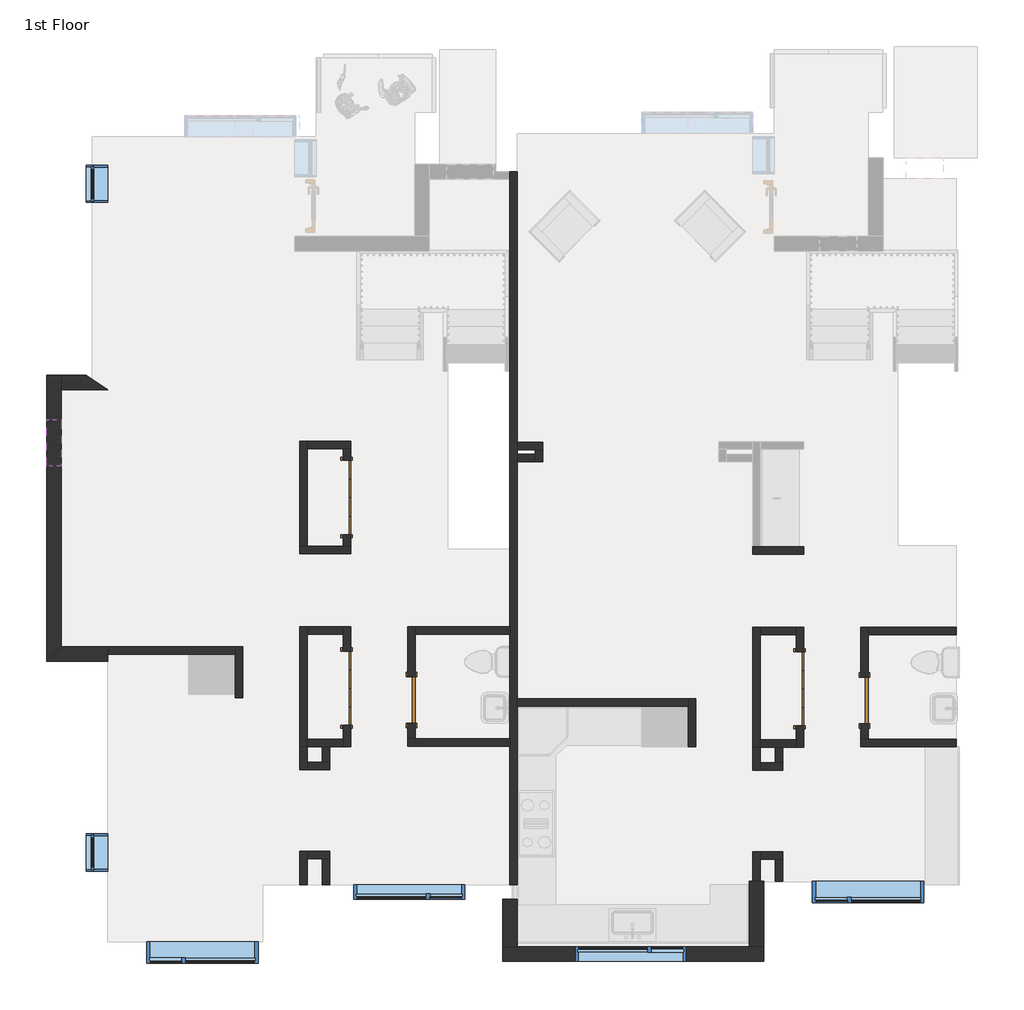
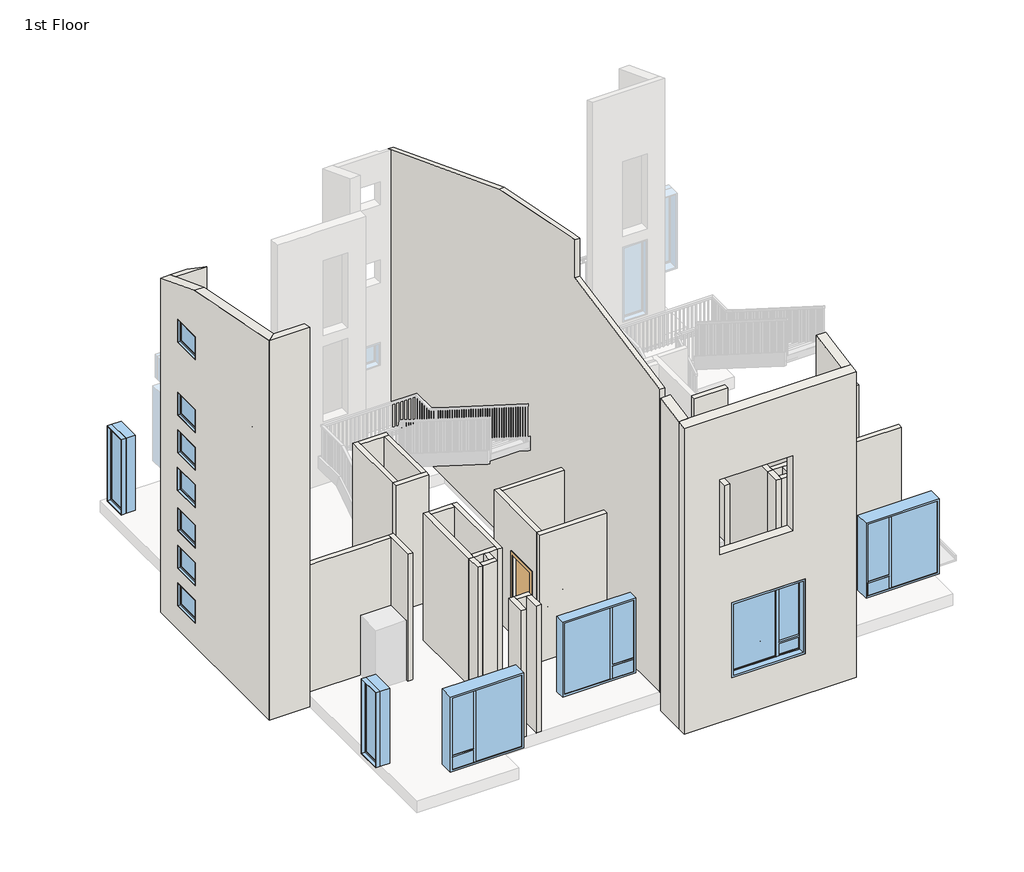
# One storey, part 1 of 6: 45 walls, 13 windows, 5 doors.
"""IFC4 building model written with IfcOpenShell, lengths in millimetres."""

from ifc_helpers import new_model, si_unit, frame, origin, origin_with_axes, place, context, project, spatial, polyline, outline, extrude, faceted_brep, transform, mapped, element, save
from components import bifold_4_panel_87549022, door_f8acb57e, window_8bf192ed, window_b1c1038b, window_8c170f25, window_7b40078c, window_0ea17b29, window_b4566f23

model = new_model("IFC4")

# Units and contexts
model_context = context("Model", 3, world=origin())
ifc_project = project(units=[si_unit("LENGTHUNIT", "METRE", prefix="MILLI")], contexts=[model_context])

# Site, building, storey
site = spatial("IfcSite", under=ifc_project)
building = spatial("IfcBuilding", under=site)
storey = spatial("IfcBuildingStorey", under=building, Name="1st Floor", Elevation=0.0)

# Doors
placement = place(None, origin())
bifold_4_panel_shape = bifold_4_panel_87549022(model_context)
element("IfcDoor", 1, ObjectType="Bifold - 4 panel : 48\" x  84\"", at=placement, inside=storey, context=model_context, shape_type="MappedRepresentation", body=[
    mapped(bifold_4_panel_shape, transform((3072.3655789, -2688.2311915, 0.0), x_axis=(0.0, -1.0, 0.0), y_axis=(1.0, 0.0, 0.0), z_axis=(0.0, 0.0, 1.0))),
])
element("IfcDoor", 2, ObjectType="Bifold - 4 panel : 48\" x  84\"", at=placement, inside=storey, context=model_context, shape_type="MappedRepresentation", body=[
    mapped(bifold_4_panel_shape, transform((-4380.8788287, -2678.2311915, 0.0), x_axis=(0.0, -1.0, 0.0), y_axis=(1.0, 0.0, 0.0), z_axis=(0.0, 0.0, 1.0))),
])
element("IfcDoor", 3, ObjectType="Bifold - 4 panel : 48\" x  84\"", at=placement, inside=storey, context=model_context, shape_type="MappedRepresentation", body=[
    mapped(bifold_4_panel_shape, transform((-4380.8788287, 458.0881146, 0.0), x_axis=(0.0, -1.0, 0.0), y_axis=(1.0, 0.0, 0.0), z_axis=(0.0, 0.0, 1.0))),
])
door_shape = door_f8acb57e(model_context)
element("IfcDoor", 4, ObjectType="Single-Flush : 30\" x 84\"", at=placement, inside=storey, context=model_context, shape_type="MappedRepresentation", body=[
    mapped(door_shape, transform((4133.8655789, -2883.0811915, 0.0), x_axis=(0.0, -1.0, 0.0), y_axis=(1.0, 0.0, 0.0), z_axis=(0.0, 0.0, 1.0))),
])
element("IfcDoor", 5, ObjectType="Single-Flush : 30\" x 84\"", at=placement, inside=storey, context=model_context, shape_type="MappedRepresentation", body=[
    mapped(door_shape, transform((-3319.3788287, -2873.0811915, 0.0), x_axis=(0.0, -1.0, 0.0), y_axis=(1.0, 0.0, 0.0), z_axis=(0.0, 0.0, 1.0))),
])

# Walls
element("IfcWall", 6, ObjectType="Exterior - Stucco", at=placement, inside=storey, context=model_context, shape_type="Brep", body=[
    faceted_brep([(-1817.4196781, -7175.2311915, -304.8), (2477.8178219, -7175.2311915, -304.8), (2477.8178219, -7175.2311915, 7751.741203), (-1817.4196781, -7175.2311915, 7751.741203), (1202.9938664, -7175.2311915, 2743.2), (1202.9938664, -7175.2311915, 762.0), (-625.8061336, -7175.2311915, 762.0), (-625.8061336, -7175.2311915, 2743.2), (898.1938664, -7175.2311915, 6096.0), (898.1938664, -7175.2311915, 4114.8), (-930.6061336, -7175.2311915, 4114.8), (-930.6061336, -7175.2311915, 6096.0), (-1817.4196781, -6933.9311915, -304.8), (-1817.4196781, -6933.9311915, 7798.3676333), (-1576.1196781, -6933.9311915, 7798.3676333), (2236.5178219, -6933.9311915, 7798.3676333), (2477.8178219, -6933.9311915, 7798.3676333), (2477.8178219, -6933.9311915, -304.8), (2236.5178219, -6933.9311915, -304.8), (-1576.1196781, -6933.9311915, -304.8), (1202.9938664, -6933.9311915, 2743.2), (-625.8061336, -6933.9311915, 2743.2), (-625.8061336, -6933.9311915, 762.0), (1202.9938664, -6933.9311915, 762.0), (898.1938664, -6933.9311915, 6096.0), (-930.6061336, -6933.9311915, 6096.0), (-930.6061336, -6933.9311915, 4114.8), (898.1938664, -6933.9311915, 4114.8)], [[[0, 1, 2, 3], [4, 5, 6, 7], [8, 9, 10, 11]], [[12, 13, 14, 15, 16, 17, 18, 19], [20, 21, 22, 23], [24, 25, 26, 27]], [[1, 0, 12, 19, 18, 17]], [[0, 3, 13, 12]], [[2, 1, 17, 16]], [[3, 2, 16, 15, 14, 13]], [[5, 4, 20, 23]], [[6, 5, 23, 22]], [[7, 6, 22, 21]], [[4, 7, 21, 20]], [[9, 8, 24, 27]], [[10, 9, 27, 26]], [[11, 10, 26, 25]], [[8, 11, 25, 24]]]),
])
element("IfcWall", 7, ObjectType="Exterior - Stucco", at=placement, inside=storey, context=model_context, shape_type="Brep", body=[
    faceted_brep([(-9080.4946781, 2472.0574206, -304.8), (-9080.4946781, 2472.0574206, 8511.7370135), (-9080.4946781, 2230.7574206, 8604.6307787), (-9080.4946781, 1023.3611207, 9069.4446552), (-9080.4946781, -1997.5436915, 9665.7212145), (-9080.4946781, -1997.5436915, -304.8), (-9080.4946781, 2230.7574206, -304.8), (-9080.4946781, 1734.6688085, 7870.825), (-9080.4946781, 1734.6688085, 7261.225), (-9080.4946781, 972.6688085, 7261.225), (-9080.4946781, 972.6688085, 7870.825), (-9080.4946781, 1734.6688085, 5949.95), (-9080.4946781, 1734.6688085, 5340.35), (-9080.4946781, 972.6688085, 5340.35), (-9080.4946781, 972.6688085, 5949.95), (-9080.4946781, 1734.6688085, 4956.175), (-9080.4946781, 1734.6688085, 4346.575), (-9080.4946781, 972.6688085, 4346.575), (-9080.4946781, 972.6688085, 4956.175), (-9080.4946781, 1741.8074206, 3962.4), (-9080.4946781, 1741.8074206, 3352.8), (-9080.4946781, 979.8074206, 3352.8), (-9080.4946781, 979.8074206, 3962.4), (-9080.4946781, 1734.6688085, 2901.95), (-9080.4946781, 1734.6688085, 2292.35), (-9080.4946781, 972.6688085, 2292.35), (-9080.4946781, 972.6688085, 2901.95), (-9080.4946781, 1734.6688085, 1908.175), (-9080.4946781, 1734.6688085, 1298.575), (-9080.4946781, 972.6688085, 1298.575), (-9080.4946781, 972.6688085, 1908.175), (-9080.4946781, 1734.6688085, 914.4), (-9080.4946781, 1734.6688085, 304.8), (-9080.4946781, 972.6688085, 304.8), (-9080.4946781, 972.6688085, 914.4), (-9321.7946781, 2472.0574206, -304.8), (-9321.7946781, -2238.8436915, -304.8), (-9321.7946781, -2238.8436915, 9713.3498366), (-9321.7946781, 1023.3611207, 9069.4446552), (-9321.7946781, 2472.0574206, 8511.7370135), (-9321.7946781, 1734.6688085, 7870.825), (-9321.7946781, 972.6688085, 7870.825), (-9321.7946781, 972.6688085, 7261.225), (-9321.7946781, 1734.6688085, 7261.225), (-9321.7946781, 1734.6688085, 5949.95), (-9321.7946781, 972.6688085, 5949.95), (-9321.7946781, 972.6688085, 5340.35), (-9321.7946781, 1734.6688085, 5340.35), (-9321.7946781, 1734.6688085, 4956.175), (-9321.7946781, 972.6688085, 4956.175), (-9321.7946781, 972.6688085, 4346.575), (-9321.7946781, 1734.6688085, 4346.575), (-9321.7946781, 1741.8074206, 3962.4), (-9321.7946781, 979.8074206, 3962.4), (-9321.7946781, 979.8074206, 3352.8), (-9321.7946781, 1741.8074206, 3352.8), (-9321.7946781, 1734.6688085, 2901.95), (-9321.7946781, 972.6688085, 2901.95), (-9321.7946781, 972.6688085, 2292.35), (-9321.7946781, 1734.6688085, 2292.35), (-9321.7946781, 1734.6688085, 1908.175), (-9321.7946781, 972.6688085, 1908.175), (-9321.7946781, 972.6688085, 1298.575), (-9321.7946781, 1734.6688085, 1298.575), (-9321.7946781, 1734.6688085, 914.4), (-9321.7946781, 972.6688085, 914.4), (-9321.7946781, 972.6688085, 304.8), (-9321.7946781, 1734.6688085, 304.8)], [[[0, 1, 2, 3, 4, 5, 6], [7, 8, 9, 10], [11, 12, 13, 14], [15, 16, 17, 18], [19, 20, 21, 22], [23, 24, 25, 26], [27, 28, 29, 30], [31, 32, 33, 34]], [[35, 36, 37, 38, 39], [40, 41, 42, 43], [44, 45, 46, 47], [48, 49, 50, 51], [52, 53, 54, 55], [56, 57, 58, 59], [60, 61, 62, 63], [64, 65, 66, 67]], [[36, 35, 0, 6, 5]], [[35, 39, 1, 0]], [[37, 36, 5, 4]], [[39, 38, 3, 2, 1]], [[38, 37, 4, 3]], [[8, 7, 40, 43]], [[9, 8, 43, 42]], [[10, 9, 42, 41]], [[7, 10, 41, 40]], [[12, 11, 44, 47]], [[13, 12, 47, 46]], [[14, 13, 46, 45]], [[11, 14, 45, 44]], [[16, 15, 48, 51]], [[17, 16, 51, 50]], [[18, 17, 50, 49]], [[15, 18, 49, 48]], [[20, 19, 52, 55]], [[21, 20, 55, 54]], [[22, 21, 54, 53]], [[19, 22, 53, 52]], [[24, 23, 56, 59]], [[25, 24, 59, 58]], [[26, 25, 58, 57]], [[23, 26, 57, 56]], [[28, 27, 60, 63]], [[29, 28, 63, 62]], [[30, 29, 62, 61]], [[27, 30, 61, 60]], [[32, 31, 64, 67]], [[33, 32, 67, 66]], [[34, 33, 66, 65]], [[31, 34, 65, 64]]]),
])
element("IfcWall", 8, ObjectType="Exterior - Stucco", at=placement, inside=storey, context=model_context, shape_type="Brep", body=[
    faceted_brep([(-9080.4946781, 2230.7574206, -304.8), (-8312.2446781, 2230.7574206, -304.8), (-8312.2446781, 2230.7574206, 8604.6307787), (-9080.4946781, 2230.7574206, 8604.6307787), (-9080.4946781, 2472.0574206, -304.8), (-9080.4946781, 2472.0574206, 8511.7370135), (-8664.6696781, 2472.0574206, 8511.7370135), (-8664.6696781, 2472.0574206, -304.8)], [[[0, 1, 2, 3]], [[4, 5, 6, 7]], [[1, 0, 4, 7]], [[2, 1, 7, 6]], [[0, 3, 5, 4]], [[3, 2, 6, 5]]]),
])
element("IfcWall", 9, ObjectType="Exterior - Stucco", at=placement, inside=storey, context=model_context, shape_type="Brep", body=[
    faceted_brep([(-9321.7946781, -2238.8436915, -304.8), (-8312.2446781, -2238.8436915, -304.8), (-8312.2446781, -2238.8436915, -28.575), (-8312.2446781, -2238.8436915, 6705.6), (-8312.2446781, -2238.8436915, 8711.0519224), (-8312.2446781, -2238.8436915, 9713.3498366), (-9321.7946781, -2238.8436915, 9713.3498366), (-9080.4946781, -1997.5436915, -304.8), (-9080.4946781, -1997.5436915, 9665.7212145), (-8312.2446781, -1997.5436915, 9665.7212145), (-8312.2446781, -1997.5436915, 6705.6), (-8312.2446781, -1997.5436915, -304.8)], [[[0, 1, 2, 3, 4, 5, 6]], [[7, 8, 9, 10, 11]], [[1, 0, 7, 11]], [[5, 4, 3, 2, 1, 11, 10, 9]], [[0, 6, 8, 7]], [[6, 5, 9, 8]]]),
])
element("IfcWall", 10, ObjectType="Exterior - Stucco", at=placement, inside=storey, context=model_context, shape_type="SweptSolid", body=[
    extrude(outline(polyline([(-6155.1546456, 7948.8507263), (-6155.1546456, -304.8), (-6933.9311915, -304.8), (-6933.9311915, 7798.3676333), (-6155.1546456, 7948.8507263)])), frame((-1817.4196781, 0.0, 0.0), z_axis=(1.0, 0.0, 0.0), x_axis=(0.0, 1.0, 0.0)), (0.0, 0.0, 1.0), 241.3),
])
element("IfcWall", 11, ObjectType="Exterior - Stucco", at=placement, inside=storey, context=model_context, shape_type="Brep", body=[
    faceted_brep([(2477.8178219, -6933.9311915, -304.8), (2477.8178219, -6210.7171456, -304.8), (2477.8178219, -5858.2921456, -304.8), (2477.8178219, -5858.2921456, 8006.2135057), (2477.8178219, -6210.7171456, 7938.1143772), (2477.8178219, -6933.9311915, 7798.3676333), (2236.5178219, -6933.9311915, -304.8), (2236.5178219, -6933.9311915, 7798.3676333), (2236.5178219, -5858.2921456, 8006.2135057), (2236.5178219, -5858.2921456, -304.8)], [[[0, 1, 2, 3, 4, 5]], [[6, 7, 8, 9]], [[2, 1, 0, 6, 9]], [[2, 9, 8, 3]], [[0, 5, 7, 6]], [[5, 4, 3, 8, 7]]]),
])
element("IfcWall", 12, ObjectType="Interior - 4 7/8\" Partition (1-hr)", at=placement, inside=storey, context=model_context, shape_type="Brep", body=[
    faceted_brep([(5642.6530789, -3646.6686915, 0.0), (5642.6530789, -3646.6686915, 3048.0), (4071.9530789, -3646.6686915, 3048.0), (4071.9530789, -3646.6686915, 0.0), (5642.6530789, -3522.8436915, 0.0), (4195.7780789, -3522.8436915, 0.0), (4071.9530789, -3522.8436915, 0.0), (4071.9530789, -3522.8436915, 3048.0), (4195.7780789, -3522.8436915, 3048.0), (5642.6530789, -3522.8436915, 3048.0)], [[[0, 1, 2, 3]], [[4, 5, 6, 7, 8, 9]], [[6, 5, 4, 0, 3]], [[7, 6, 3, 2]], [[4, 9, 1, 0]], [[9, 8, 7, 2, 1]]]),
])
element("IfcWall", 13, ObjectType="Interior - 4 7/8\" Partition (1-hr)", at=placement, inside=storey, context=model_context, shape_type="Brep", body=[
    faceted_brep([(4071.9530789, -3264.0811915, 2133.6), (4071.9530789, -3264.0811915, 0.0), (4071.9530789, -3522.8436915, 0.0), (4071.9530789, -3522.8436915, 3048.0), (4071.9530789, -1675.8186915, 3048.0), (4071.9530789, -1675.8186915, 0.0), (4071.9530789, -2502.0811915, 0.0), (4071.9530789, -2502.0811915, 2133.6), (4195.7780789, -3522.8436915, 0.0), (4195.7780789, -3264.0811915, 0.0), (4195.7780789, -3264.0811915, 2133.6), (4195.7780789, -2502.0811915, 2133.6), (4195.7780789, -2502.0811915, 0.0), (4195.7780789, -1799.6436915, 0.0), (4195.7780789, -1675.8186915, 0.0), (4195.7780789, -1675.8186915, 3048.0), (4195.7780789, -1799.6436915, 3048.0), (4195.7780789, -3522.8436915, 3048.0)], [[[0, 1, 2, 3, 4, 5, 6, 7]], [[8, 9, 10, 11, 12, 13, 14, 15, 16, 17]], [[2, 1, 9, 8]], [[6, 5, 14, 13, 12]], [[15, 14, 5, 4]], [[8, 17, 3, 2]], [[17, 16, 15, 4, 3]], [[10, 9, 1, 0]], [[11, 10, 0, 7]], [[12, 11, 7, 6]]]),
])
element("IfcWall", 14, ObjectType="Interior - 4 7/8\" Partition (1-hr)", at=placement, inside=storey, context=model_context, shape_type="SweptSolid", body=[
    extrude(outline(polyline([(5642.6530789, -1799.6436915), (4195.7780789, -1799.6436915), (4195.7780789, -1675.8186915), (5642.6530789, -1675.8186915), (5642.6530789, -1799.6436915)])), origin_with_axes(), (0.0, 0.0, 1.0), 3048.0),
])
element("IfcWall", 15, ObjectType="Interior - 4 7/8\" Partition (1-hr)", at=placement, inside=storey, context=model_context, shape_type="Brep", body=[
    faceted_brep([(3133.8655789, -352.8186915, 0.0), (3133.8655789, -352.8186915, 3048.0), (3133.8655789, -476.6436915, 3048.0), (3133.8655789, -476.6436915, 0.0), (2300.7803219, -476.6436915, 3048.0), (2300.7803219, -476.6436915, 0.0), (2424.6053219, -352.8186915, 0.0), (2300.7803219, -352.8186915, 0.0), (2300.7803219, -352.8186915, 3048.0), (2424.6053219, -352.8186915, 3048.0)], [[[0, 1, 2, 3]], [[3, 2, 4, 5]], [[0, 6, 7, 8, 9, 1]], [[7, 6, 0, 3, 5]], [[8, 7, 5, 4]], [[1, 9, 8, 4, 2]]]),
])
element("IfcWall", 16, ObjectType="Interior - 4 7/8\" Partition (1-hr)", at=placement, inside=storey, context=model_context, shape_type="SweptSolid", body=[
    extrude(outline(polyline([(1235.1530789, -2980.3686915), (-1576.1196781, -2980.3686915), (-1576.1196781, -2856.5436915), (1235.1530789, -2856.5436915), (1235.1530789, -2980.3686915)])), origin_with_axes(), (0.0, 0.0, 1.0), 3048.0),
])
element("IfcWall", 17, ObjectType="Interior - 4 7/8\" Partition (1-hr)", at=placement, inside=storey, context=model_context, shape_type="Brep", body=[
    faceted_brep([(3134.2780789, -3652.9061915, 0.0), (3134.2780789, -3297.8311915, 0.0), (3134.2780789, -3297.8311915, 2133.6), (3134.2780789, -2078.6311915, 2133.6), (3134.2780789, -2078.6311915, 0.0), (3134.2780789, -1675.8186915, 0.0), (3134.2780789, -1675.8186915, 3048.0), (3134.2780789, -3652.9061915, 3048.0), (3010.4530789, -3297.8311915, 2133.6), (3010.4530789, -3297.8311915, 0.0), (3010.4530789, -3529.0811915, 0.0), (3010.4530789, -3652.9061915, 0.0), (3010.4530789, -3652.9061915, 3048.0), (3010.4530789, -3529.0811915, 3048.0), (3010.4530789, -1799.6436915, 3048.0), (3010.4530789, -1675.8186915, 3048.0), (3010.4530789, -1675.8186915, 0.0), (3010.4530789, -1799.6436915, 0.0), (3010.4530789, -2078.6311915, 0.0), (3010.4530789, -2078.6311915, 2133.6)], [[[0, 1, 2, 3, 4, 5, 6, 7]], [[8, 9, 10, 11, 12, 13, 14, 15, 16, 17, 18, 19]], [[11, 10, 9, 1, 0]], [[18, 17, 16, 5, 4]], [[16, 15, 6, 5]], [[12, 11, 0, 7]], [[15, 14, 13, 12, 7, 6]], [[2, 1, 9, 8]], [[3, 2, 8, 19]], [[4, 3, 19, 18]]]),
])
element("IfcWall", 18, ObjectType="Interior - 4 7/8\" Partition (1-hr)", at=placement, inside=storey, context=model_context, shape_type="Brep", body=[
    faceted_brep([(2424.6053219, -1675.8186915, 0.0), (2424.6053219, -1675.8186915, 3048.0), (2424.6053219, -1799.6436915, 3048.0), (2424.6053219, -3529.0811915, 3048.0), (2424.6053219, -3652.9061915, 3048.0), (2424.6053219, -3652.9061915, 0.0), (2424.6053219, -3529.0811915, 0.0), (2424.6053219, -1799.6436915, 0.0), (2300.7803219, -1675.8186915, 0.0), (2300.7803219, -3652.9061915, 0.0), (2300.7803219, -3652.9061915, 3048.0), (2300.7803219, -1675.8186915, 3048.0)], [[[0, 1, 2, 3, 4, 5, 6, 7]], [[8, 9, 10, 11]], [[9, 8, 0, 7, 6, 5]], [[8, 11, 1, 0]], [[10, 9, 5, 4]], [[11, 10, 4, 3, 2, 1]]]),
])
element("IfcWall", 19, ObjectType="Interior - 4 7/8\" Partition (1-hr)", at=placement, inside=storey, context=model_context, shape_type="Brep", body=[
    faceted_brep([(1235.1530789, -3646.2561915, 3048.0), (1235.1530789, -3646.2561915, 0.0), (1358.9780789, -3646.2561915, 0.0), (1358.9780789, -3646.2561915, 3048.0), (1358.9780789, -2856.5436915, 0.0), (1358.9780789, -2856.5436915, 3048.0), (1235.1530789, -2856.5436915, 0.0), (1235.1530789, -2980.3686915, 0.0), (1235.1530789, -2980.3686915, 3048.0), (1235.1530789, -2856.5436915, 3048.0)], [[[0, 1, 2, 3]], [[4, 5, 3, 2]], [[6, 7, 1, 0, 8, 9]], [[1, 7, 6, 4, 2]], [[6, 9, 5, 4]], [[9, 8, 0, 3, 5]]]),
])
element("IfcWall", 20, ObjectType="Interior - 4 7/8\" Partition (1-hr)", at=placement, inside=storey, context=model_context, shape_type="SweptSolid", body=[
    extrude(outline(polyline([(3010.4530789, -1799.6436915), (2424.6053219, -1799.6436915), (2424.6053219, -1675.8186915), (3010.4530789, -1675.8186915), (3010.4530789, -1799.6436915)])), origin_with_axes(), (0.0, 0.0, 1.0), 3048.0),
])
element("IfcWall", 21, ObjectType="Interior - 4 7/8\" Partition (1-hr)", at=placement, inside=storey, context=model_context, shape_type="Brep", body=[
    faceted_brep([(2424.6053219, -3652.9061915, 0.0), (2667.0803219, -3652.9061915, 0.0), (2790.9053219, -3652.9061915, 0.0), (3010.4530789, -3652.9061915, 0.0), (3010.4530789, -3652.9061915, 3048.0), (2790.9053219, -3652.9061915, 3048.0), (2667.0803219, -3652.9061915, 3048.0), (2424.6053219, -3652.9061915, 3048.0), (2424.6053219, -3529.0811915, 0.0), (2424.6053219, -3529.0811915, 3048.0), (3010.4530789, -3529.0811915, 3048.0), (3010.4530789, -3529.0811915, 0.0)], [[[0, 1, 2, 3, 4, 5, 6, 7]], [[8, 9, 10, 11]], [[3, 2, 1, 0, 8, 11]], [[4, 3, 11, 10]], [[0, 7, 9, 8]], [[7, 6, 5, 4, 10, 9]]]),
])
element("IfcWall", 22, ObjectType="Interior - 4 7/8\" Partition (1-hr)", at=placement, inside=storey, context=model_context, shape_type="Brep", body=[
    faceted_brep([(-1576.1196781, 1369.6145201, 0.0), (-1576.1196781, 1369.6145201, 3048.0), (-1158.1946824, 1369.6188208, 3048.0), (-1158.1946824, 1369.6188208, 0.0), (-1576.1196781, 1245.7895201, 0.0), (-1282.0184081, 1245.7925466, 0.0), (-1158.1934081, 1245.7938208, 0.0), (-1158.1934081, 1245.7938208, 3048.0), (-1282.0184081, 1245.7925466, 3048.0), (-1576.1196781, 1245.7895201, 3048.0)], [[[0, 1, 2, 3]], [[4, 5, 6, 7, 8, 9]], [[6, 5, 4, 0, 3]], [[7, 6, 3, 2]], [[4, 9, 1, 0]], [[9, 8, 7, 2, 1]]]),
])
element("IfcWall", 23, ObjectType="Interior - 4 7/8\" Partition (1-hr)", at=placement, inside=storey, context=model_context, shape_type="Brep", body=[
    faceted_brep([(-1158.1934081, 1245.7938208, 0.0), (-1158.1934081, 1245.7938208, 3048.0), (-1158.1913829, 1048.9949206, 3048.0), (-1158.1913829, 1048.9949206, 0.0), (-1282.0184081, 1245.7925466, 0.0), (-1282.0176572, 1172.8199206, 0.0), (-1282.016383, 1048.9949206, 0.0), (-1282.016383, 1048.9949206, 3048.0), (-1282.0176572, 1172.8199206, 3048.0), (-1282.0184081, 1245.7925466, 3048.0)], [[[0, 1, 2, 3]], [[4, 5, 6, 7, 8, 9]], [[6, 5, 4, 0, 3]], [[4, 9, 1, 0]], [[7, 6, 3, 2]], [[9, 8, 7, 2, 1]]]),
])
element("IfcWall", 24, ObjectType="Interior - 4 7/8\" Partition (1-hr)", at=placement, inside=storey, context=model_context, shape_type="SweptSolid", body=[
    extrude(outline(polyline([(-1576.1196781, 1172.8199206), (-1282.0176572, 1172.8199206), (-1282.016383, 1048.9949206), (-1576.1196781, 1048.9949206), (-1576.1196781, 1172.8199206)])), origin_with_axes(), (0.0, 0.0, 1.0), 3048.0),
])
element("IfcWall", 25, ObjectType="Interior - 4 7/8\" Partition (1-hr)", at=placement, inside=storey, context=model_context, shape_type="Brep", body=[
    faceted_brep([(2424.6053219, -3652.9061915, 0.0), (2424.6053219, -3652.9061915, 3048.0), (2424.6053219, -3904.9061915, 3048.0), (2424.6053219, -4028.7311915, 3048.0), (2424.6053219, -4028.7311915, 0.0), (2424.6053219, -3904.9061915, 0.0), (2300.7803219, -3652.9061915, 0.0), (2300.7803219, -4028.7311915, 0.0), (2300.7803219, -4028.7311915, 3048.0), (2300.7803219, -3652.9061915, 3048.0)], [[[0, 1, 2, 3, 4, 5]], [[6, 7, 8, 9]], [[7, 6, 0, 5, 4]], [[6, 9, 1, 0]], [[8, 7, 4, 3]], [[9, 8, 3, 2, 1]]]),
])
element("IfcWall", 26, ObjectType="Interior - 4 7/8\" Partition (1-hr)", at=placement, inside=storey, context=model_context, shape_type="Brep", body=[
    faceted_brep([(2424.6053219, -3904.9061915, 0.0), (2424.6053219, -3904.9061915, 3048.0), (2667.0803219, -3904.9061915, 3048.0), (2790.9053219, -3904.9061915, 3048.0), (2790.9053219, -3904.9061915, 0.0), (2667.0803219, -3904.9061915, 0.0), (2424.6053219, -4028.7311915, 0.0), (2790.9053219, -4028.7311915, 0.0), (2790.9053219, -4028.7311915, 3048.0), (2424.6053219, -4028.7311915, 3048.0)], [[[0, 1, 2, 3, 4, 5]], [[6, 7, 8, 9]], [[7, 6, 0, 5, 4]], [[6, 9, 1, 0]], [[8, 7, 4, 3]], [[9, 8, 3, 2, 1]]]),
])
element("IfcWall", 27, ObjectType="Interior - 4 7/8\" Partition (1-hr)", at=placement, inside=storey, context=model_context, shape_type="SweptSolid", body=[
    extrude(outline(polyline([(2790.9053219, -3652.9061915), (2790.9053219, -3904.9061915), (2667.0803219, -3904.9061915), (2667.0803219, -3652.9061915), (2790.9053219, -3652.9061915)])), origin_with_axes(), (0.0, 0.0, 1.0), 3048.0),
])
element("IfcWall", 28, ObjectType="Interior - 4 7/8\" Partition (1-hr)", at=placement, inside=storey, context=model_context, shape_type="Brep", body=[
    faceted_brep([(2424.4786115, -5858.2921456, 0.0), (2424.4786115, -5497.9561915, 0.0), (2424.4786115, -5374.1311915, 0.0), (2424.4786115, -5374.1311915, 3048.0), (2424.4786115, -5497.9561915, 3048.0), (2424.4786115, -5858.2921456, 3048.0), (2300.6536115, -5858.2921456, 0.0), (2300.6536115, -5858.2921456, 3048.0), (2300.6536115, -5374.1311915, 3048.0), (2300.6536115, -5374.1311915, 0.0)], [[[0, 1, 2, 3, 4, 5]], [[6, 7, 8, 9]], [[2, 1, 0, 6, 9]], [[3, 2, 9, 8]], [[0, 5, 7, 6]], [[5, 4, 3, 8, 7]]]),
])
element("IfcWall", 29, ObjectType="Interior - 4 7/8\" Partition (1-hr)", at=placement, inside=storey, context=model_context, shape_type="Brep", body=[
    faceted_brep([(2424.4786115, -5374.1311915, 0.0), (2424.4786115, -5374.1311915, 3048.0), (2790.9053219, -5374.1311915, 3048.0), (2790.9053219, -5374.1311915, 0.0), (2424.4786115, -5497.9561915, 0.0), (2667.0803219, -5497.9561915, 0.0), (2790.9053219, -5497.9561915, 0.0), (2790.9053219, -5497.9561915, 3048.0), (2667.0803219, -5497.9561915, 3048.0), (2424.4786115, -5497.9561915, 3048.0)], [[[0, 1, 2, 3]], [[4, 5, 6, 7, 8, 9]], [[6, 5, 4, 0, 3]], [[4, 9, 1, 0]], [[7, 6, 3, 2]], [[9, 8, 7, 2, 1]]]),
])
element("IfcWall", 30, ObjectType="Interior - 4 7/8\" Partition (1-hr)", at=placement, inside=storey, context=model_context, shape_type="SweptSolid", body=[
    extrude(outline(polyline([(2667.0803219, -5858.2921456), (2667.0803219, -5497.9561915), (2790.9053219, -5497.9561915), (2790.9053219, -5858.2921456), (2667.0803219, -5858.2921456)])), origin_with_axes(), (0.0, 0.0, 1.0), 3048.0),
])
element("IfcWall", 31, ObjectType="Interior - 4 7/8\" Partition (1-hr)", at=placement, inside=storey, context=model_context, shape_type="Brep", body=[
    faceted_brep([(-1699.9446781, -3512.8436915, 0.0), (-3257.4663287, -3512.8436915, 0.0), (-3381.2913287, -3512.8436915, 0.0), (-3381.2913287, -3512.8436915, 3352.8), (-3257.4663287, -3512.8436915, 3352.8), (-1699.9446781, -3512.8436915, 3352.8), (-1699.9446781, -3636.6686915, 0.0), (-1699.9446781, -3636.6686915, 3352.8), (-3381.2913287, -3636.6686915, 3352.8), (-3381.2913287, -3636.6686915, 0.0)], [[[0, 1, 2, 3, 4, 5]], [[6, 7, 8, 9]], [[2, 1, 0, 6, 9]], [[5, 4, 3, 8, 7]], [[3, 2, 9, 8]], [[0, 5, 7, 6]]]),
])
element("IfcWall", 32, ObjectType="Interior - 4 7/8\" Partition (1-hr)", at=placement, inside=storey, context=model_context, shape_type="Brep", body=[
    faceted_brep([(-3257.4663287, -3512.8436915, 3352.8), (-3257.4663287, -1789.6436915, 3352.8), (-3257.4663287, -1665.8186915, 3352.8), (-3381.2913287, -1665.8186915, 3352.8), (-3381.2913287, -3512.8436915, 3352.8), (-3381.2913287, -3254.0811915, 2133.6), (-3381.2913287, -3254.0811915, 0.0), (-3381.2913287, -3512.8436915, 0.0), (-3381.2913287, -1665.8186915, 0.0), (-3381.2913287, -2492.0811915, 0.0), (-3381.2913287, -2492.0811915, 2133.6), (-3257.4663287, -3512.8436915, 0.0), (-3257.4663287, -3254.0811915, 0.0), (-3257.4663287, -3254.0811915, 2133.6), (-3257.4663287, -2492.0811915, 2133.6), (-3257.4663287, -2492.0811915, 0.0), (-3257.4663287, -1789.6436915, 0.0), (-3257.4663287, -1665.8186915, 0.0)], [[[0, 1, 2, 3, 4]], [[5, 6, 7, 4, 3, 8, 9, 10]], [[11, 12, 13, 14, 15, 16, 17, 2, 1, 0]], [[7, 6, 12, 11]], [[9, 8, 17, 16, 15]], [[2, 17, 8, 3]], [[11, 0, 4, 7]], [[13, 12, 6, 5]], [[14, 13, 5, 10]], [[15, 14, 10, 9]]]),
])
element("IfcWall", 33, ObjectType="Interior - 4 7/8\" Partition (1-hr)", at=placement, inside=storey, context=model_context, shape_type="SweptSolid", body=[
    extrude(outline(polyline([(-1699.9446781, -1789.6436915), (-3257.4663287, -1789.6436915), (-3257.4663287, -1665.8186915), (-1699.9446781, -1665.8186915), (-1699.9446781, -1789.6436915)])), origin_with_axes(), (0.0, 0.0, 1.0), 3352.8),
])
element("IfcWall", 34, ObjectType="Interior - 4 7/8\" Partition (1-hr)", at=placement, inside=storey, context=model_context, shape_type="Brep", body=[
    faceted_brep([(-4318.9663287, -342.8186915, 0.0), (-4442.7913287, -342.8186915, 0.0), (-5028.6390857, -342.8186915, 0.0), (-5152.4640857, -342.8186915, 0.0), (-5152.4640857, -342.8186915, 3352.8), (-5028.6390857, -342.8186915, 3352.8), (-4442.7913287, -342.8186915, 3352.8), (-4318.9663287, -342.8186915, 3352.8), (-4318.9663287, -466.6436915, 0.0), (-4318.9663287, -466.6436915, 3352.8), (-5152.4640857, -466.6436915, 3352.8), (-5152.4640857, -466.6436915, 0.0)], [[[0, 1, 2, 3, 4, 5, 6, 7]], [[8, 9, 10, 11]], [[3, 2, 1, 0, 8, 11]], [[7, 6, 5, 4, 10, 9]], [[4, 3, 11, 10]], [[0, 7, 9, 8]]]),
])
element("IfcWall", 35, ObjectType="Interior - 4 7/8\" Partition (1-hr)", at=placement, inside=storey, context=model_context, shape_type="Brep", body=[
    faceted_brep([(-5028.6390857, -342.8186915, 0.0), (-5028.6390857, 1258.9949206, 0.0), (-5028.6390857, 1382.8199206, 0.0), (-5028.6390857, 1382.8199206, 3352.8), (-5028.6390857, 1258.9949206, 3352.8), (-5028.6390857, -342.8186915, 3352.8), (-5152.4640857, -342.8186915, 0.0), (-5152.4640857, -342.8186915, 3352.8), (-5152.4640857, 1382.8199206, 3352.8), (-5152.4640857, 1382.8199206, 0.0)], [[[0, 1, 2, 3, 4, 5]], [[6, 7, 8, 9]], [[2, 1, 0, 6, 9]], [[5, 4, 3, 8, 7]], [[3, 2, 9, 8]], [[0, 5, 7, 6]]]),
])
element("IfcWall", 36, ObjectType="Interior - 4 7/8\" Partition (1-hr)", at=placement, inside=storey, context=model_context, shape_type="Brep", body=[
    faceted_brep([(-5028.6390857, 1258.9949206, 0.0), (-4442.7913287, 1258.9949206, 0.0), (-4318.9663287, 1258.9949206, 0.0), (-4318.9663287, 1258.9949206, 3352.8), (-4442.7913287, 1258.9949206, 3352.8), (-5028.6390857, 1258.9949206, 3352.8), (-5028.6390857, 1382.8199206, 0.0), (-5028.6390857, 1382.8199206, 3352.8), (-4318.9663287, 1382.8199206, 3352.8), (-4318.9663287, 1382.8199206, 0.0)], [[[0, 1, 2, 3, 4, 5]], [[6, 7, 8, 9]], [[2, 1, 0, 6, 9]], [[5, 4, 3, 8, 7]], [[3, 2, 9, 8]], [[0, 5, 7, 6]]]),
])
element("IfcWall", 37, ObjectType="Interior - 4 7/8\" Partition (1-hr)", at=placement, inside=storey, context=model_context, shape_type="Brep", body=[
    faceted_brep([(-8312.2446781, -2121.3686915, 3352.8), (-7905.7446781, -2121.3686915, 3352.8), (-7143.7446781, -2121.3686915, 3352.8), (-6218.0913287, -2121.3686915, 3352.8), (-6218.0913287, -1997.5436915, 3352.8), (-7143.7446781, -1997.5436915, 3352.8), (-7905.7446781, -1997.5436915, 3352.8), (-8312.2446781, -1997.5436915, 3352.8), (-8312.2446781, -1997.5436915, 0.0), (-6218.0913287, -1997.5436915, 0.0), (-8312.2446781, -2121.3686915, 0.0), (-6218.0913287, -2121.3686915, 0.0)], [[[0, 1, 2, 3, 4, 5, 6, 7]], [[8, 7, 6, 5, 4, 9]], [[10, 11, 3, 2, 1, 0]], [[11, 10, 8, 9]], [[3, 11, 9, 4]], [[10, 0, 7, 8]]]),
])
element("IfcWall", 38, ObjectType="Interior - 4 7/8\" Partition (1-hr)", at=placement, inside=storey, context=model_context, shape_type="Brep", body=[
    faceted_brep([(-4442.7913287, -3287.8311915, 2133.6), (-4442.7913287, -3287.8311915, 0.0), (-4442.7913287, -3519.0811915, 0.0), (-4442.7913287, -3642.9061915, 0.0), (-4442.7913287, -3642.9061915, 3352.8), (-4442.7913287, -3519.0811915, 3352.8), (-4442.7913287, -1789.6436915, 3352.8), (-4442.7913287, -1665.8186915, 3352.8), (-4442.7913287, -1665.8186915, 0.0), (-4442.7913287, -1789.6436915, 0.0), (-4442.7913287, -2068.6311915, 0.0), (-4442.7913287, -2068.6311915, 2133.6), (-4318.9663287, -3642.9061915, 0.0), (-4318.9663287, -3287.8311915, 0.0), (-4318.9663287, -3287.8311915, 2133.6), (-4318.9663287, -2068.6311915, 2133.6), (-4318.9663287, -2068.6311915, 0.0), (-4318.9663287, -1665.8186915, 0.0), (-4318.9663287, -1665.8186915, 3352.8), (-4318.9663287, -3642.9061915, 3352.8)], [[[0, 1, 2, 3, 4, 5, 6, 7, 8, 9, 10, 11]], [[12, 13, 14, 15, 16, 17, 18, 19]], [[3, 2, 1, 13, 12]], [[10, 9, 8, 17, 16]], [[7, 6, 5, 4, 19, 18]], [[8, 7, 18, 17]], [[4, 3, 12, 19]], [[14, 13, 1, 0]], [[15, 14, 0, 11]], [[16, 15, 11, 10]]]),
])
element("IfcWall", 39, ObjectType="Interior - 4 7/8\" Partition (1-hr)", at=placement, inside=storey, context=model_context, shape_type="Brep", body=[
    faceted_brep([(-5152.4640857, -1665.8186915, 0.0), (-5152.4640857, -3642.9061915, 0.0), (-5152.4640857, -3642.9061915, 3352.8), (-5152.4640857, -1665.8186915, 3352.8), (-5028.6390857, -1665.8186915, 0.0), (-5028.6390857, -1665.8186915, 3352.8), (-5028.6390857, -1789.6436915, 3352.8), (-5028.6390857, -3519.0811915, 3352.8), (-5028.6390857, -3642.9061915, 3352.8), (-5028.6390857, -3642.9061915, 0.0), (-5028.6390857, -3519.0811915, 0.0), (-5028.6390857, -1789.6436915, 0.0)], [[[0, 1, 2, 3]], [[4, 5, 6, 7, 8, 9, 10, 11]], [[1, 0, 4, 11, 10, 9]], [[3, 2, 8, 7, 6, 5]], [[0, 3, 5, 4]], [[2, 1, 9, 8]]]),
])
element("IfcWall", 40, ObjectType="Interior - 4 7/8\" Partition (1-hr)", at=placement, inside=storey, context=model_context, shape_type="Brep", body=[
    faceted_brep([(-6218.0913287, -1997.5436915, 0.0), (-6218.0913287, -2121.3686915, 0.0), (-6218.0913287, -2836.9186915, 0.0), (-6218.0913287, -2836.9186915, 3352.8), (-6218.0913287, -2121.3686915, 3352.8), (-6218.0913287, -1997.5436915, 3352.8), (-6094.2663287, -1997.5436915, 0.0), (-6094.2663287, -1997.5436915, 3352.8), (-6094.2663287, -2836.9186915, 3352.8), (-6094.2663287, -2836.9186915, 0.0)], [[[0, 1, 2, 3, 4, 5]], [[6, 7, 8, 9]], [[2, 1, 0, 6, 9]], [[3, 2, 9, 8]], [[5, 4, 3, 8, 7]], [[0, 5, 7, 6]]]),
])
element("IfcWall", 41, ObjectType="Interior - 4 7/8\" Partition (1-hr)", at=placement, inside=storey, context=model_context, shape_type="SweptSolid", body=[
    extrude(outline(polyline([(-4442.7913287, -1789.6436915), (-5028.6390857, -1789.6436915), (-5028.6390857, -1665.8186915), (-4442.7913287, -1665.8186915), (-4442.7913287, -1789.6436915)])), origin_with_axes(), (0.0, 0.0, 1.0), 3352.8),
])
element("IfcWall", 42, ObjectType="Interior - 4 7/8\" Partition (1-hr)", at=placement, inside=storey, context=model_context, shape_type="Brep", body=[
    faceted_brep([(-5028.6390857, -3642.9061915, 0.0), (-4786.1640857, -3642.9061915, 0.0), (-4662.3390857, -3642.9061915, 0.0), (-4442.7913287, -3642.9061915, 0.0), (-4442.7913287, -3642.9061915, 3352.8), (-4662.3390857, -3642.9061915, 3352.8), (-4786.1640857, -3642.9061915, 3352.8), (-5028.6390857, -3642.9061915, 3352.8), (-5028.6390857, -3519.0811915, 0.0), (-5028.6390857, -3519.0811915, 3352.8), (-4442.7913287, -3519.0811915, 3352.8), (-4442.7913287, -3519.0811915, 0.0)], [[[0, 1, 2, 3, 4, 5, 6, 7]], [[8, 9, 10, 11]], [[3, 2, 1, 0, 8, 11]], [[7, 6, 5, 4, 10, 9]], [[4, 3, 11, 10]], [[0, 7, 9, 8]]]),
])
element("IfcWall", 43, ObjectType="Interior - 4 7/8\" Partition (1-hr)", at=placement, inside=storey, context=model_context, shape_type="Brep", body=[
    faceted_brep([(-5152.4640857, -3642.9061915, 0.0), (-5152.4640857, -4018.7311915, 0.0), (-5152.4640857, -4018.7311915, 3352.8), (-5152.4640857, -3642.9061915, 3352.8), (-5028.6390857, -3642.9061915, 0.0), (-5028.6390857, -3642.9061915, 3352.8), (-5028.6390857, -3894.9061915, 3352.8), (-5028.6390857, -4018.7311915, 3352.8), (-5028.6390857, -4018.7311915, 0.0), (-5028.6390857, -3894.9061915, 0.0)], [[[0, 1, 2, 3]], [[4, 5, 6, 7, 8, 9]], [[1, 0, 4, 9, 8]], [[3, 2, 7, 6, 5]], [[2, 1, 8, 7]], [[0, 3, 5, 4]]]),
])
element("IfcWall", 44, ObjectType="Interior - 4 7/8\" Partition (1-hr)", at=placement, inside=storey, context=model_context, shape_type="Brep", body=[
    faceted_brep([(-5028.6390857, -4018.7311915, 0.0), (-4662.3390857, -4018.7311915, 0.0), (-4662.3390857, -4018.7311915, 3352.8), (-5028.6390857, -4018.7311915, 3352.8), (-5028.6390857, -3894.9061915, 0.0), (-5028.6390857, -3894.9061915, 3352.8), (-4786.1640857, -3894.9061915, 3352.8), (-4662.3390857, -3894.9061915, 3352.8), (-4662.3390857, -3894.9061915, 0.0), (-4786.1640857, -3894.9061915, 0.0)], [[[0, 1, 2, 3]], [[4, 5, 6, 7, 8, 9]], [[1, 0, 4, 9, 8]], [[3, 2, 7, 6, 5]], [[2, 1, 8, 7]], [[0, 3, 5, 4]]]),
])
element("IfcWall", 45, ObjectType="Interior - 4 7/8\" Partition (1-hr)", at=placement, inside=storey, context=model_context, shape_type="SweptSolid", body=[
    extrude(outline(polyline([(-4662.3390857, -3642.9061915), (-4662.3390857, -3894.9061915), (-4786.1640857, -3894.9061915), (-4786.1640857, -3642.9061915), (-4662.3390857, -3642.9061915)])), origin_with_axes(), (0.0, 0.0, 1.0), 3352.8),
])
element("IfcWall", 46, ObjectType="Interior - 4 7/8\" Partition (1-hr)", at=placement, inside=storey, context=model_context, shape_type="Brep", body=[
    faceted_brep([(-5028.7657961, -5913.8546456, 0.0), (-5028.7657961, -5487.9561915, 0.0), (-5028.7657961, -5364.1311915, 0.0), (-5028.7657961, -5364.1311915, 3352.8), (-5028.7657961, -5487.9561915, 3352.8), (-5028.7657961, -5913.8546456, 3352.8), (-5152.5907961, -5913.8546456, 0.0), (-5152.5907961, -5913.8546456, 3352.8), (-5152.5907961, -5364.1311915, 3352.8), (-5152.5907961, -5364.1311915, 0.0)], [[[0, 1, 2, 3, 4, 5]], [[6, 7, 8, 9]], [[2, 1, 0, 6, 9]], [[5, 4, 3, 8, 7]], [[3, 2, 9, 8]], [[0, 5, 7, 6]]]),
])
element("IfcWall", 47, ObjectType="Interior - 4 7/8\" Partition (1-hr)", at=placement, inside=storey, context=model_context, shape_type="Brep", body=[
    faceted_brep([(-5028.7657961, -5487.9561915, 0.0), (-4786.1640857, -5487.9561915, 0.0), (-4662.3390857, -5487.9561915, 0.0), (-4662.3390857, -5487.9561915, 3352.8), (-4786.1640857, -5487.9561915, 3352.8), (-5028.7657961, -5487.9561915, 3352.8), (-5028.7657961, -5364.1311915, 0.0), (-5028.7657961, -5364.1311915, 3352.8), (-4662.3390857, -5364.1311915, 3352.8), (-4662.3390857, -5364.1311915, 0.0)], [[[0, 1, 2, 3, 4, 5]], [[6, 7, 8, 9]], [[2, 1, 0, 6, 9]], [[5, 4, 3, 8, 7]], [[3, 2, 9, 8]], [[0, 5, 7, 6]]]),
])
element("IfcWall", 48, ObjectType="Interior - 4 7/8\" Partition (1-hr)", at=placement, inside=storey, context=model_context, shape_type="SweptSolid", body=[
    extrude(outline(polyline([(-4786.1640857, -5913.8546456), (-4786.1640857, -5487.9561915), (-4662.3390857, -5487.9561915), (-4662.3390857, -5913.8546456), (-4786.1640857, -5913.8546456)])), origin_with_axes(), (0.0, 0.0, 1.0), 3352.8),
])
element("IfcWall", 49, ObjectType="Interior - 4 7/8\" Partition (1-hr)", at=placement, inside=storey, context=model_context, shape_type="SweptSolid", body=[
    extrude(outline(polyline([(-151.5118854, 2133.6), (-151.5118854, 0.0), (-342.8186915, 0.0), (-342.8186915, 3352.8), (1258.9949206, 3352.8), (1258.9949206, 0.0), (1067.6881146, 0.0), (1067.6881146, 2133.6), (-151.5118854, 2133.6)])), frame((-4442.7913287, 0.0, 0.0), z_axis=(1.0, 0.0, 0.0), x_axis=(0.0, 1.0, 0.0)), (0.0, 0.0, 1.0), 123.825),
])
element("IfcWall", 50, ObjectType="Interior - 4 7/8\" Partition (1-hr)", at=placement, inside=storey, context=model_context, shape_type="Brep", body=[
    faceted_brep([(-1699.9446781, 5817.7187973, 0.0), (-1699.9446781, 5697.0687973, 0.0), (-1699.9446781, -1665.8186915, 0.0), (-1699.9446781, -1789.6436915, 0.0), (-1699.9446781, -3512.8436915, 0.0), (-1699.9446781, -3636.6686915, 0.0), (-1699.9446781, -5913.8546456, 0.0), (-1699.9446781, -5913.8546456, 7995.4771566), (-1699.9446781, -2238.8436915, 8705.6), (-1699.9446781, -2238.8436915, 9713.3498366), (-1699.9446781, -1997.5436915, 9665.7212145), (-1699.9446781, 1023.3611207, 9069.4446552), (-1699.9446781, 5697.0687973, 7270.1976451), (-1699.9446781, 5817.7187973, 7223.7507625), (-1576.1196781, 5817.7187973, 0.0), (-1576.1196781, 5817.7187973, 7223.7507625), (-1576.1196781, 1023.3611207, 9069.4446552), (-1576.1196781, -1997.5436915, 9665.7212145), (-1576.1196781, -2238.8436915, 9713.3498366), (-1576.1196781, -2238.8436915, 8705.6), (-1576.1196781, -5913.8546456, 7995.4771566), (-1576.1196781, -5913.8546456, 0.0), (-1576.1196781, -2980.3686915, 0.0), (-1576.1196781, -2856.5436915, 0.0), (-1576.1196781, 1048.9949206, 0.0), (-1576.1196781, 1172.8199206, 0.0), (-1576.1196781, 1245.7895201, 0.0), (-1576.1196781, 1369.6145201, 0.0), (-1576.1196781, 5697.0687973, 0.0)], [[[0, 1, 2, 3, 4, 5, 6, 7, 8, 9, 10, 11, 12, 13]], [[14, 15, 16, 17, 18, 19, 20, 21, 22, 23, 24, 25, 26, 27, 28]], [[6, 5, 4, 3, 2, 1, 0, 14, 28, 27, 26, 25, 24, 23, 22, 21]], [[0, 13, 15, 14]], [[7, 6, 21, 20]], [[18, 9, 8, 19]], [[8, 7, 20, 19]], [[13, 12, 11, 16, 15]], [[11, 10, 9, 18, 17, 16]]]),
])

# Windows
window_shape = window_8bf192ed(model_context)
element("IfcWindow", 51, ObjectType="Fixed : 24\" x 30\"", at=placement, inside=storey, context=model_context, shape_type="MappedRepresentation", body=[
    mapped(window_shape, transform((-9201.1446781, 1391.7688085, -609.6), x_axis=(0.0, 1.0, 0.0), y_axis=(-1.0, 0.0, 0.0), z_axis=(0.0, 0.0, 1.0))),
])
element("IfcWindow", 52, ObjectType="Fixed : 24\" x 30\"", at=placement, inside=storey, context=model_context, shape_type="MappedRepresentation", body=[
    mapped(window_shape, transform((-9201.1446781, 1391.7688085, 384.175), x_axis=(0.0, 1.0, 0.0), y_axis=(-1.0, 0.0, 0.0), z_axis=(0.0, 0.0, 1.0))),
])
element("IfcWindow", 53, ObjectType="Fixed : 24\" x 30\"", at=placement, inside=storey, context=model_context, shape_type="MappedRepresentation", body=[
    mapped(window_shape, transform((-9201.1446781, 1391.7688085, 1377.95), x_axis=(0.0, 1.0, 0.0), y_axis=(-1.0, 0.0, 0.0), z_axis=(0.0, 0.0, 1.0))),
])
element("IfcWindow", 54, ObjectType="Fixed : 24\" x 30\"", at=placement, inside=storey, context=model_context, shape_type="MappedRepresentation", body=[
    mapped(window_shape, transform((-9201.1446781, 1398.9074206, 2438.4), x_axis=(0.0, 1.0, 0.0), y_axis=(-1.0, 0.0, 0.0), z_axis=(0.0, 0.0, 1.0))),
])
element("IfcWindow", 55, ObjectType="Fixed : 24\" x 30\"", at=placement, inside=storey, context=model_context, shape_type="MappedRepresentation", body=[
    mapped(window_shape, transform((-9201.1446781, 1391.7688085, 3432.175), x_axis=(0.0, 1.0, 0.0), y_axis=(-1.0, 0.0, 0.0), z_axis=(0.0, 0.0, 1.0))),
])
element("IfcWindow", 56, ObjectType="Fixed : 24\" x 30\"", at=placement, inside=storey, context=model_context, shape_type="MappedRepresentation", body=[
    mapped(window_shape, transform((-9201.1446781, 1391.7688085, 4425.95), x_axis=(0.0, 1.0, 0.0), y_axis=(-1.0, 0.0, 0.0), z_axis=(0.0, 0.0, 1.0))),
])
element("IfcWindow", 57, ObjectType="Fixed : 24\" x 30\"", at=placement, inside=storey, context=model_context, shape_type="MappedRepresentation", body=[
    mapped(window_shape, transform((-9201.1446781, 1391.7688085, 6346.825), x_axis=(0.0, 1.0, 0.0), y_axis=(-1.0, 0.0, 0.0), z_axis=(0.0, 0.0, 1.0))),
])
window_2_shape = window_b1c1038b(model_context)
element("IfcWindow", 58, ObjectType="Fixed : 24\" x 78\"", at=placement, inside=storey, context=model_context, shape_type="MappedRepresentation", body=[
    mapped(window_2_shape, transform((-8488.4571781, 5654.8563085, 0.0), x_axis=(0.0, 1.0, 0.0), y_axis=(-1.0, 0.0, 0.0), z_axis=(0.0, 0.0, 1.0))),
])
window_3_shape = window_8c170f25(model_context)
element("IfcWindow", 59, ObjectType="Fixed : 24\" x 78\"", at=placement, inside=storey, context=model_context, shape_type="MappedRepresentation", body=[
    mapped(window_3_shape, transform((-8488.4571781, -5421.6425794, 0.0), x_axis=(0.0, -1.0, 0.0), y_axis=(1.0, 0.0, 0.0), z_axis=(0.0, 0.0, 1.0))),
])
window_4_shape = window_7b40078c(model_context)
element("IfcWindow", 60, ObjectType="Window-Casement-Double-Sidelight : 72\" x 78\"", at=placement, inside=storey, context=model_context, shape_type="MappedRepresentation", body=[
    mapped(window_4_shape, transform((-6756.9168819, -7030.3311915, -152.4), x_axis=(-1.0, 0.0, 0.0), y_axis=(0.0, -1.0, 0.0), z_axis=(0.0, 0.0, 1.0))),
])
element("IfcWindow", 61, ObjectType="Window-Casement-Double-Sidelight : 72\" x 78\"", at=placement, inside=storey, context=model_context, shape_type="MappedRepresentation", body=[
    mapped(window_4_shape, transform((4195.3655789, -6034.5046456, 0.0), x_axis=(-1.0, 0.0, 0.0), y_axis=(0.0, -1.0, 0.0), z_axis=(0.0, 0.0, 1.0))),
])
window_5_shape = window_0ea17b29(model_context)
element("IfcWindow", 62, ObjectType="Window-Casement-Double-Sidelight : 72\" x 78\"", at=placement, inside=storey, context=model_context, shape_type="MappedRepresentation", body=[
    mapped(window_5_shape, transform((288.5938664, -7054.5811915, -152.4), x_axis=(1.0, 0.0, 0.0), y_axis=(0.0, 1.0, 0.0), z_axis=(0.0, 0.0, 1.0))),
])
window_6_shape = window_b4566f23(model_context)
element("IfcWindow", 63, ObjectType="Window-Casement-Double-Sidelight : 72\" x 78\"", at=placement, inside=storey, context=model_context, shape_type="MappedRepresentation", body=[
    mapped(window_6_shape, transform((-3352.6515857, -6034.5046456, 0.0), x_axis=(1.0, 0.0, 0.0), y_axis=(0.0, 1.0, 0.0), z_axis=(0.0, 0.0, 1.0))),
])

save(model, "model.ifc")
